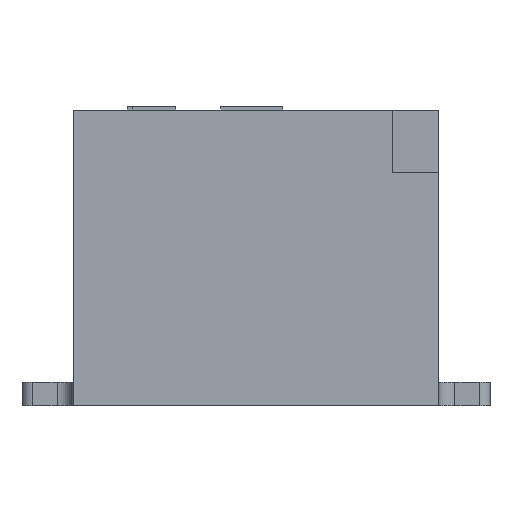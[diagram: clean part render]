
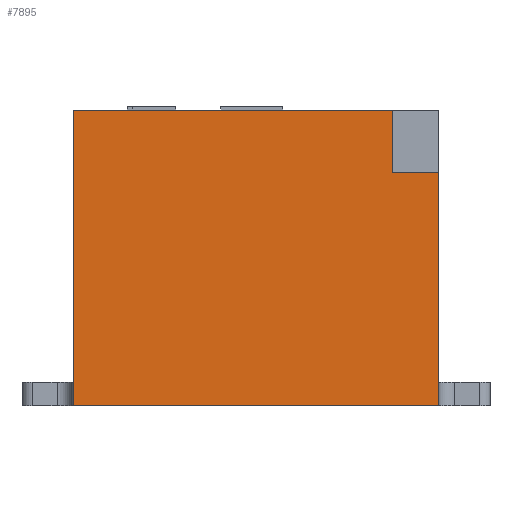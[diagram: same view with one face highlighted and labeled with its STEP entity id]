
A CAD part, left-side view. The second image highlights one B-rep face of the part: STEP entity #7895.
In plain terms, the highlighted planar face has unit normal (-1, 0, 0).
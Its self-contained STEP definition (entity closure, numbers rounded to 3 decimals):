
#197=DIRECTION('',(0.,-1.,0.));
#198=VECTOR('',#197,47.);
#199=CARTESIAN_POINT('',(0.,23.5,0.));
#200=LINE('',#199,#198);
#429=DIRECTION('',(0.,0.,1.));
#430=VECTOR('',#429,30.);
#431=CARTESIAN_POINT('',(0.,-23.5,0.));
#432=LINE('',#431,#430);
#453=DIRECTION('',(0.,-1.,0.));
#454=VECTOR('',#453,41.);
#455=CARTESIAN_POINT('',(0.,23.5,38.));
#456=LINE('',#455,#454);
#1933=DIRECTION('',(0.,0.,-1.));
#1934=VECTOR('',#1933,8.);
#1935=CARTESIAN_POINT('',(0.,-17.5,38.));
#1936=LINE('',#1935,#1934);
#1937=DIRECTION('',(0.,1.,0.));
#1938=VECTOR('',#1937,6.);
#1939=CARTESIAN_POINT('',(0.,-23.5,30.));
#1940=LINE('',#1939,#1938);
#1941=DIRECTION('',(0.,0.,1.));
#1942=VECTOR('',#1941,38.);
#1943=CARTESIAN_POINT('',(0.,23.5,0.));
#1944=LINE('',#1943,#1942);
#4993=CARTESIAN_POINT('',(0.,23.5,0.));
#4994=CARTESIAN_POINT('',(0.,-23.5,0.));
#4995=VERTEX_POINT('',#4993);
#4996=VERTEX_POINT('',#4994);
#5005=CARTESIAN_POINT('',(0.,23.5,38.));
#5006=VERTEX_POINT('',#5005);
#5171=CARTESIAN_POINT('',(0.,-17.5,38.));
#5172=VERTEX_POINT('',#5171);
#5173=CARTESIAN_POINT('',(0.,-17.5,30.));
#5174=VERTEX_POINT('',#5173);
#5175=CARTESIAN_POINT('',(0.,-23.5,30.));
#5176=VERTEX_POINT('',#5175);
#7881=CARTESIAN_POINT('',(0.,23.5,0.));
#7882=DIRECTION('',(-1.,0.,0.));
#7883=DIRECTION('',(0.,-1.,0.));
#7884=AXIS2_PLACEMENT_3D('',#7881,#7882,#7883);
#7885=PLANE('',#7884);
#7886=ORIENTED_EDGE('',*,*,#7863,.T.);
#7887=ORIENTED_EDGE('',*,*,#7873,.F.);
#7888=ORIENTED_EDGE('',*,*,#7006,.F.);
#7889=ORIENTED_EDGE('',*,*,#6716,.F.);
#7891=ORIENTED_EDGE('',*,*,#7890,.T.);
#7892=ORIENTED_EDGE('',*,*,#7036,.T.);
#7893=EDGE_LOOP('',(#7886,#7887,#7888,#7889,#7891,#7892));
#7894=FACE_OUTER_BOUND('',#7893,.F.);
#7895=ADVANCED_FACE('',(#7894),#7885,.T.);
#6716=EDGE_CURVE('',#4995,#4996,#200,.T.);
#7006=EDGE_CURVE('',#4996,#5176,#432,.T.);
#7036=EDGE_CURVE('',#5006,#5172,#456,.T.);
#7863=EDGE_CURVE('',#5172,#5174,#1936,.T.);
#7873=EDGE_CURVE('',#5176,#5174,#1940,.T.);
#7890=EDGE_CURVE('',#4995,#5006,#1944,.T.);
